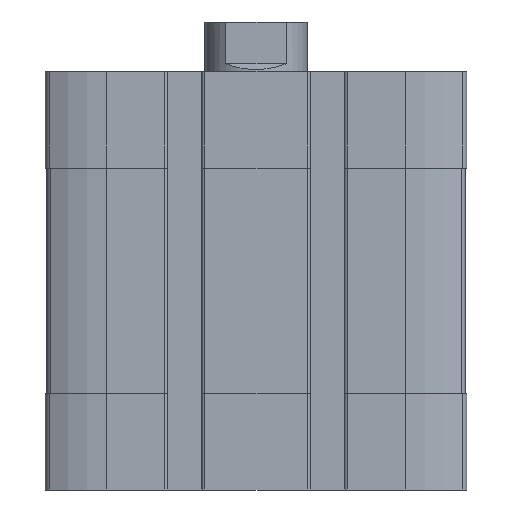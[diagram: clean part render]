
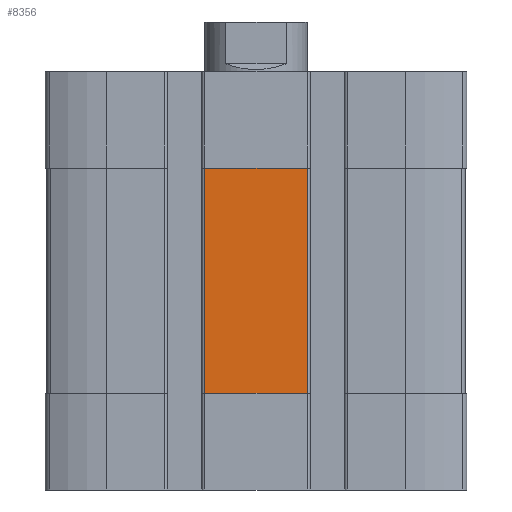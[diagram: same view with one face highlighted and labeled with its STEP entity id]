
A CAD part, front view. The second image highlights one B-rep face of the part: STEP entity #8356.
In plain terms, the highlighted planar face has unit normal (0, -1, 0).
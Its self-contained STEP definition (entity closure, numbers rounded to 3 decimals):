
#861 = LINE ( 'NONE', #13601, #9886 ) ;
#996 = ORIENTED_EDGE ( 'NONE', *, *, #13899, .T. ) ;
#1911 = DIRECTION ( 'NONE',  ( -1., 0., 0. ) ) ;
#2234 = CARTESIAN_POINT ( 'NONE',  ( -8., -32.5, -50. ) ) ;
#3276 = LINE ( 'NONE', #10166, #9158 ) ;
#3336 = CARTESIAN_POINT ( 'NONE',  ( -8., -32.5, -50. ) ) ;
#4013 = AXIS2_PLACEMENT_3D ( 'NONE', #3336, #6937, #15150 ) ;
#4264 = EDGE_CURVE ( 'NONE', #7451, #12342, #12850, .T. ) ;
#5757 = PLANE ( 'NONE',  #4013 ) ;
#6931 = ORIENTED_EDGE ( 'NONE', *, *, #11751, .T. ) ;
#6937 = DIRECTION ( 'NONE',  ( 0., -1., 0. ) ) ;
#7451 = VERTEX_POINT ( 'NONE', #12395 ) ;
#8103 = DIRECTION ( 'NONE',  ( 0., 0., 1. ) ) ;
#8195 = EDGE_LOOP ( 'NONE', ( #6931, #996, #14572, #14538 ) ) ;
#8356 = ADVANCED_FACE ( 'NONE', ( #14235 ), #5757, .T. ) ;
#8451 = CARTESIAN_POINT ( 'NONE',  ( 8., -32.5, -15. ) ) ;
#9158 = VECTOR ( 'NONE', #12508, 1000. ) ;
#9339 = CARTESIAN_POINT ( 'NONE',  ( -8., -32.5, -50. ) ) ;
#9886 = VECTOR ( 'NONE', #1911, 1000. ) ;
#10166 = CARTESIAN_POINT ( 'NONE',  ( -8., -32.5, -50. ) ) ;
#10511 = DIRECTION ( 'NONE',  ( 0., 0., -1. ) ) ;
#10961 = VECTOR ( 'NONE', #8103, 1000. ) ;
#11718 = EDGE_CURVE ( 'NONE', #14606, #7451, #861, .T. ) ;
#11751 = EDGE_CURVE ( 'NONE', #12342, #14647, #3276, .T. ) ;
#12198 = CARTESIAN_POINT ( 'NONE',  ( 8., -32.5, -50. ) ) ;
#12342 = VERTEX_POINT ( 'NONE', #2234 ) ;
#12395 = CARTESIAN_POINT ( 'NONE',  ( -8., -32.5, -15. ) ) ;
#12473 = VECTOR ( 'NONE', #10511, 1000. ) ;
#12508 = DIRECTION ( 'NONE',  ( 1., 0., 0. ) ) ;
#12850 = LINE ( 'NONE', #9339, #12473 ) ;
#13601 = CARTESIAN_POINT ( 'NONE',  ( 0., -32.5, -15. ) ) ;
#13899 = EDGE_CURVE ( 'NONE', #14647, #14606, #14452, .T. ) ;
#13974 = CARTESIAN_POINT ( 'NONE',  ( 8., -32.5, -50. ) ) ;
#14235 = FACE_OUTER_BOUND ( 'NONE', #8195, .T. ) ;
#14452 = LINE ( 'NONE', #13974, #10961 ) ;
#14538 = ORIENTED_EDGE ( 'NONE', *, *, #4264, .T. ) ;
#14572 = ORIENTED_EDGE ( 'NONE', *, *, #11718, .T. ) ;
#14606 = VERTEX_POINT ( 'NONE', #8451 ) ;
#14647 = VERTEX_POINT ( 'NONE', #12198 ) ;
#15150 = DIRECTION ( 'NONE',  ( 0., 0., -1. ) ) ;
